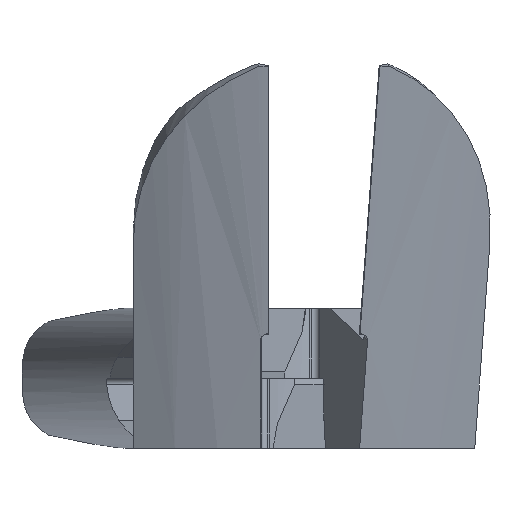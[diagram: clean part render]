
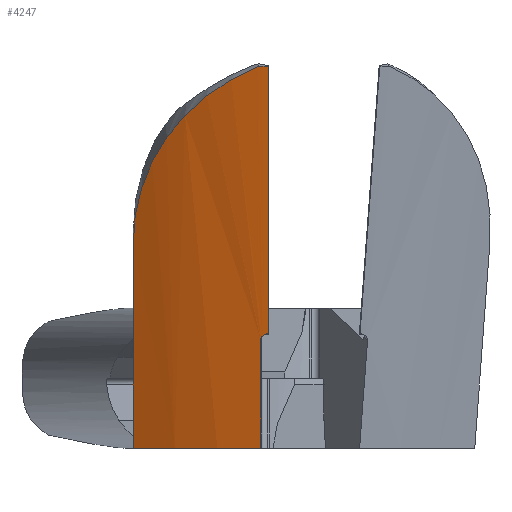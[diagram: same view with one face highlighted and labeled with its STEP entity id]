
A CAD part, left-side view. The second image highlights one B-rep face of the part: STEP entity #4247.
In plain terms, the highlighted cylindrical face has radius 44.45 mm (diameter 88.9 mm), a partial arc.
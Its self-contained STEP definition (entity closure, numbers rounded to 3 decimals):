
#222 = FACE_OUTER_BOUND ( 'NONE', #953, .T. ) ;
#223 = CYLINDRICAL_SURFACE ( 'NONE', #365, 44.45 ) ;
#347 = CARTESIAN_POINT ( 'NONE',  ( -38.957, 16.51, -16.466 ) ) ;
#365 = AXIS2_PLACEMENT_3D ( 'NONE', #1012, #1011, #1010 ) ;
#508 = EDGE_CURVE ( 'NONE', #2456, #2485, #1859, .T. ) ;
#520 = EDGE_CURVE ( 'NONE', #2501, #5096, #1880, .T. ) ;
#521 = EDGE_CURVE ( 'NONE', #5096, #2456, #1563, .T. ) ;
#953 = EDGE_LOOP ( 'NONE', ( #2317, #2318, #2319, #2320, #2321, #2322, #2323, #2324 ) ) ;
#1010 = DIRECTION ( 'NONE',  ( -0.966, 0., -0.259 ) ) ;
#1011 = DIRECTION ( 'NONE',  ( 0.259, 0., -0.966 ) ) ;
#1012 = CARTESIAN_POINT ( 'NONE',  ( -11.747, 0., 41.442 ) ) ;
#1462 = EDGE_CURVE ( 'NONE', #2496, #2501, #1990, .T. ) ;
#1465 = EDGE_CURVE ( 'NONE', #2485, #2491, #1991, .T. ) ;
#1468 = EDGE_CURVE ( 'NONE', #2491, #2481, #3703, .T. ) ;
#1470 = EDGE_CURVE ( 'NONE', #2481, #2478, #3705, .T. ) ;
#1471 = EDGE_CURVE ( 'NONE', #2478, #2496, #3707, .T. ) ;
#1563 =( BOUNDED_CURVE ( )  B_SPLINE_CURVE ( 3, ( #4907, #4904, #4901, #4900 ),
 .UNSPECIFIED., .F., .T. ) 
 B_SPLINE_CURVE_WITH_KNOTS ( ( 4, 4 ),
 ( 2.761, 3.119 ),
 .UNSPECIFIED. ) 
 CURVE ( )  GEOMETRIC_REPRESENTATION_ITEM ( )  RATIONAL_B_SPLINE_CURVE ( ( 1., 0.989, 0.989, 1. ) ) 
 REPRESENTATION_ITEM ( '' )  );
#1859 = LINE ( 'NONE', #4605, #1860 ) ;
#1860 = VECTOR ( 'NONE', #4577, 1000. ) ;
#1880 = LINE ( 'NONE', #4911, #1881 ) ;
#1881 = VECTOR ( 'NONE', #4910, 1000. ) ;
#1990 = B_SPLINE_CURVE_WITH_KNOTS ( 'NONE', 3,
 ( #4045, #4044, #4040, #4038, #4033, #4018, #4017, #4005, #4002, #4001, #3999, #3995, #3993, #3986, #3981, #3972, #3969, #3966, #3963, #3960, #3956, #3953, #3858, #3856 ),
 .UNSPECIFIED., .F., .F.,
 ( 4, 2, 2, 2, 2, 2, 2, 2, 2, 2, 2, 4 ),
 ( 0., 0.004, 0.007, 0.009, 0.011, 0.015, 0.017, 0.018, 0.022, 0.024, 0.026, 0.029 ),
 .UNSPECIFIED. ) ;
#1991 = B_SPLINE_CURVE_WITH_KNOTS ( 'NONE', 3,
 ( #3814, #4243, #4242, #4239, #4238, #4237 ),
 .UNSPECIFIED., .F., .F.,
 ( 4, 2, 4 ),
 ( -0.001, 0., 0.001 ),
 .UNSPECIFIED. ) ;
#2084 = AXIS2_PLACEMENT_3D ( 'NONE', #4229, #4228, #4225 ) ;
#2085 = AXIS2_PLACEMENT_3D ( 'NONE', #4217, #4215, #4213 ) ;
#2317 = ORIENTED_EDGE ( 'NONE', *, *, #1470, .T. ) ;
#2318 = ORIENTED_EDGE ( 'NONE', *, *, #1471, .T. ) ;
#2319 = ORIENTED_EDGE ( 'NONE', *, *, #1462, .T. ) ;
#2320 = ORIENTED_EDGE ( 'NONE', *, *, #520, .T. ) ;
#2321 = ORIENTED_EDGE ( 'NONE', *, *, #521, .T. ) ;
#2322 = ORIENTED_EDGE ( 'NONE', *, *, #508, .T. ) ;
#2323 = ORIENTED_EDGE ( 'NONE', *, *, #1465, .T. ) ;
#2324 = ORIENTED_EDGE ( 'NONE', *, *, #1468, .T. ) ;
#2456 = VERTEX_POINT ( 'NONE', #4095 ) ;
#2478 = VERTEX_POINT ( 'NONE', #4088 ) ;
#2481 = VERTEX_POINT ( 'NONE', #4084 ) ;
#2485 = VERTEX_POINT ( 'NONE', #4083 ) ;
#2491 = VERTEX_POINT ( 'NONE', #4082 ) ;
#2496 = VERTEX_POINT ( 'NONE', #4080 ) ;
#2501 = VERTEX_POINT ( 'NONE', #4079 ) ;
#3703 = CIRCLE ( 'NONE', #2084, 44.45 ) ;
#3705 = LINE ( 'NONE', #4219, #3706 ) ;
#3706 = VECTOR ( 'NONE', #4218, 1000. ) ;
#3707 = CIRCLE ( 'NONE', #2085, 44.45 ) ;
#3814 = CARTESIAN_POINT ( 'NONE',  ( -45.744, 1.016, -3.377 ) ) ;
#3856 = CARTESIAN_POINT ( 'NONE',  ( -45.586, 16.51, 8.274 ) ) ;
#3858 = CARTESIAN_POINT ( 'NONE',  ( -45.908, 16.51, 9.478 ) ) ;
#3953 = CARTESIAN_POINT ( 'NONE',  ( -46.264, 16.419, 10.665 ) ) ;
#3956 = CARTESIAN_POINT ( 'NONE',  ( -46.845, 16.146, 12.418 ) ) ;
#3960 = CARTESIAN_POINT ( 'NONE',  ( -47.046, 16.033, 12.997 ) ) ;
#3963 = CARTESIAN_POINT ( 'NONE',  ( -47.456, 15.764, 14.131 ) ) ;
#3966 = CARTESIAN_POINT ( 'NONE',  ( -47.666, 15.609, 14.688 ) ) ;
#3969 = CARTESIAN_POINT ( 'NONE',  ( -48.309, 15.081, 16.331 ) ) ;
#3972 = CARTESIAN_POINT ( 'NONE',  ( -48.754, 14.647, 17.39 ) ) ;
#3981 = CARTESIAN_POINT ( 'NONE',  ( -49.434, 13.873, 18.927 ) ) ;
#3986 = CARTESIAN_POINT ( 'NONE',  ( -49.664, 13.594, 19.431 ) ) ;
#3993 = CARTESIAN_POINT ( 'NONE',  ( -50.123, 12.995, 20.42 ) ) ;
#3995 = CARTESIAN_POINT ( 'NONE',  ( -50.351, 12.678, 20.901 ) ) ;
#3999 = CARTESIAN_POINT ( 'NONE',  ( -51.027, 11.675, 22.302 ) ) ;
#4001 = CARTESIAN_POINT ( 'NONE',  ( -51.466, 10.937, 23.183 ) ) ;
#4002 = CARTESIAN_POINT ( 'NONE',  ( -52.093, 9.728, 24.43 ) ) ;
#4005 = CARTESIAN_POINT ( 'NONE',  ( -52.297, 9.307, 24.833 ) ) ;
#4017 = CARTESIAN_POINT ( 'NONE',  ( -52.691, 8.43, 25.615 ) ) ;
#4018 = CARTESIAN_POINT ( 'NONE',  ( -52.883, 7.972, 25.995 ) ) ;
#4033 = CARTESIAN_POINT ( 'NONE',  ( -53.423, 6.566, 27.081 ) ) ;
#4038 = CARTESIAN_POINT ( 'NONE',  ( -53.743, 5.578, 27.739 ) ) ;
#4040 = CARTESIAN_POINT ( 'NONE',  ( -54.283, 3.501, 28.933 ) ) ;
#4044 = CARTESIAN_POINT ( 'NONE',  ( -54.504, 2.412, 29.469 ) ) ;
#4045 = CARTESIAN_POINT ( 'NONE',  ( -54.665, 1.27, 29.942 ) ) ;
#4079 = CARTESIAN_POINT ( 'NONE',  ( -45.586, 16.51, 8.274 ) ) ;
#4080 = CARTESIAN_POINT ( 'NONE',  ( -54.665, 1.27, 29.942 ) ) ;
#4082 = CARTESIAN_POINT ( 'NONE',  ( -45.952, 0.254, -2.644 ) ) ;
#4083 = CARTESIAN_POINT ( 'NONE',  ( -45.744, 1.016, -3.377 ) ) ;
#4084 = CARTESIAN_POINT ( 'NONE',  ( -45.952, 0., -2.644 ) ) ;
#4088 = CARTESIAN_POINT ( 'NONE',  ( -54.683, 0., 29.938 ) ) ;
#4095 = CARTESIAN_POINT ( 'NONE',  ( -42.237, 1.016, -16.466 ) ) ;
#4213 = DIRECTION ( 'NONE',  ( -0.966, 0., -0.259 ) ) ;
#4215 = DIRECTION ( 'NONE',  ( 0.259, 0., -0.966 ) ) ;
#4217 = CARTESIAN_POINT ( 'NONE',  ( -11.747, 0., 41.442 ) ) ;
#4218 = DIRECTION ( 'NONE',  ( -0.259, 0., 0.966 ) ) ;
#4219 = CARTESIAN_POINT ( 'NONE',  ( -54.683, 0., 29.938 ) ) ;
#4225 = DIRECTION ( 'NONE',  ( -0.966, 0., -0.259 ) ) ;
#4228 = DIRECTION ( 'NONE',  ( -0.259, 0., 0.966 ) ) ;
#4229 = CARTESIAN_POINT ( 'NONE',  ( -3.017, 0., 8.86 ) ) ;
#4237 = CARTESIAN_POINT ( 'NONE',  ( -45.952, 0.254, -2.644 ) ) ;
#4238 = CARTESIAN_POINT ( 'NONE',  ( -45.95, 0.455, -2.644 ) ) ;
#4239 = CARTESIAN_POINT ( 'NONE',  ( -45.927, 0.651, -2.721 ) ) ;
#4242 = CARTESIAN_POINT ( 'NONE',  ( -45.848, 0.935, -2.995 ) ) ;
#4243 = CARTESIAN_POINT ( 'NONE',  ( -45.796, 1.016, -3.183 ) ) ;
#4247 = ADVANCED_FACE ( 'NONE', ( #222 ), #223, .T. ) ;
#4577 = DIRECTION ( 'NONE',  ( -0.259, 0., 0.966 ) ) ;
#4605 = CARTESIAN_POINT ( 'NONE',  ( -54.671, 1.016, 29.941 ) ) ;
#4900 = CARTESIAN_POINT ( 'NONE',  ( -42.237, 1.016, -16.466 ) ) ;
#4901 = CARTESIAN_POINT ( 'NONE',  ( -42.111, 6.343, -16.466 ) ) ;
#4904 = CARTESIAN_POINT ( 'NONE',  ( -41.006, 11.563, -16.466 ) ) ;
#4907 = CARTESIAN_POINT ( 'NONE',  ( -38.957, 16.51, -16.466 ) ) ;
#4910 = DIRECTION ( 'NONE',  ( 0.259, 0., -0.966 ) ) ;
#4911 = CARTESIAN_POINT ( 'NONE',  ( -51.611, 16.51, 30.761 ) ) ;
#5096 = VERTEX_POINT ( 'NONE', #347 ) ;
